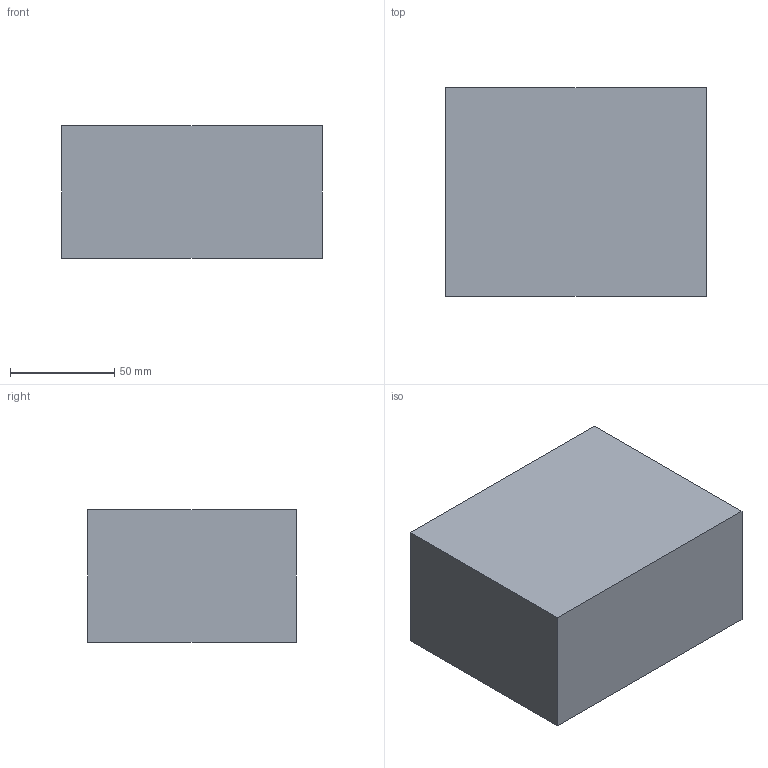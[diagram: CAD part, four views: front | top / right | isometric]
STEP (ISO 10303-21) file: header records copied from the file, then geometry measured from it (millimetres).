
FILE_DESCRIPTION(('FreeCAD Model'),'2;1');
FILE_NAME('/home/bluelambda/Documents/Arcade/meca/sfx_power.step', '2016-03-22T23:21:47',('Author'),(''), 'Open CASCADE STEP processor 6.9','FreeCAD','Unknown');
FILE_SCHEMA(('AUTOMOTIVE_DESIGN { 1 0 10303 214 1 1 1 1 }'));
Length unit declared in the file: millimetre
Products named in the file (1): sfx_power_solid
Bounding box: 125 x 100 x 63.5 mm (x, y, z)
Volume: 793750 mm3; surface area: 53575 mm2
Topology: 1 solids, 1 shells, 6 faces, 12 edges, 8 vertices
Faces by surface type: plane 6
Entity records: 333 total; most frequent: CARTESIAN_POINT 51, DIRECTION 50, LINE 36, VECTOR 36, ORIENTED_EDGE 24, PCURVE 24, DEFINITIONAL_REPRESENTATION 24, EDGE_CURVE 12
